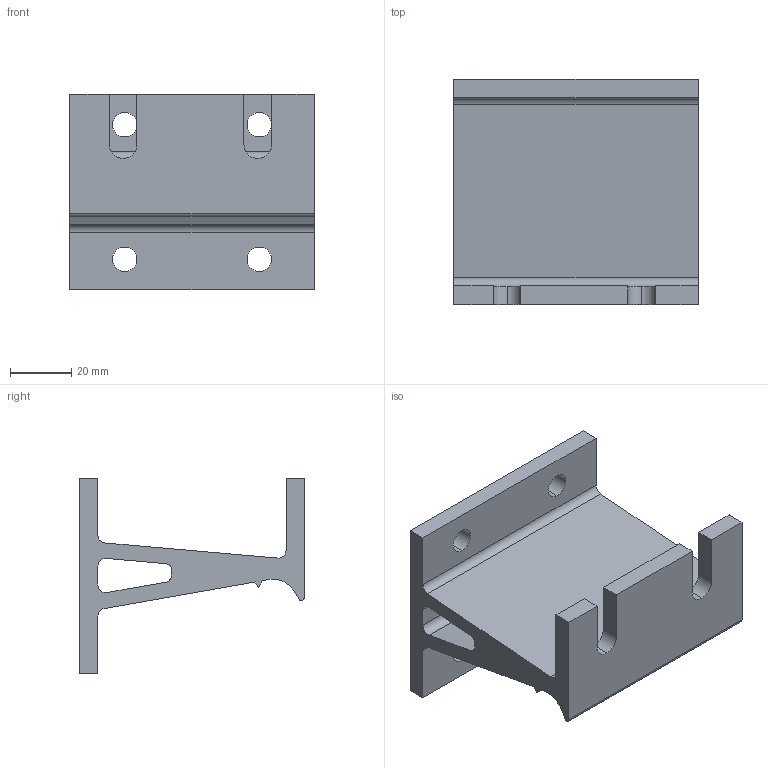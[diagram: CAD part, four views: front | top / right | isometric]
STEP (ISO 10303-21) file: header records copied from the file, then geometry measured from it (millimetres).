
FILE_DESCRIPTION (( 'STEP AP214' ), '1' );
FILE_NAME ('FAAL 88.step', '2017-04-05T07:55:07', ( '' ), ( '' ), 'SwSTEP 2.0', 'SolidWorks 2015', '' );
FILE_SCHEMA (( 'AUTOMOTIVE_DESIGN' ));
Length unit declared in the file: millimetre
Products named in the file (1): FAAL 88
Bounding box: 80 x 73.5 x 64 mm (x, y, z)
Volume: 98056.3 mm3; surface area: 33219.4 mm2
Topology: 1 solids, 1 shells, 48 faces, 138 edges, 92 vertices
Faces by surface type: plane 26, cylinder 22
Entity records: 1640 total; most frequent: DIRECTION 280, CARTESIAN_POINT 279, ORIENTED_EDGE 276, EDGE_CURVE 138, LINE 94, VECTOR 94, AXIS2_PLACEMENT_3D 93, VERTEX_POINT 92
